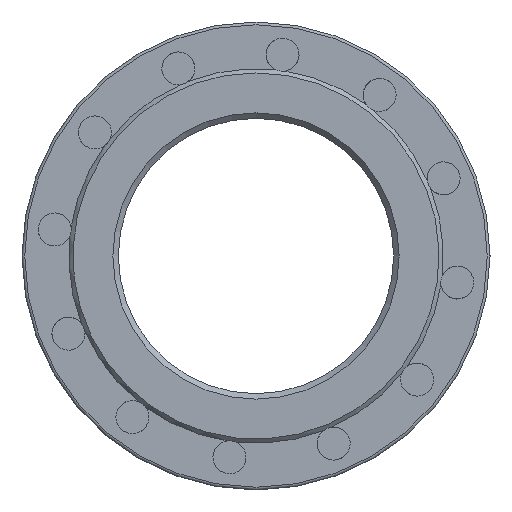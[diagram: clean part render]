
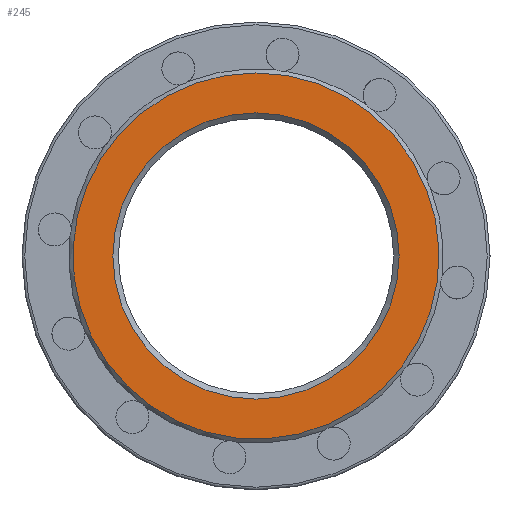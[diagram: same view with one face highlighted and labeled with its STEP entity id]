
A CAD part, left-side view. The second image highlights one B-rep face of the part: STEP entity #245.
In plain terms, the highlighted planar face has unit normal (-1, 0, 0).
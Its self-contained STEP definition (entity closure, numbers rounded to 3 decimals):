
#245 = ADVANCED_FACE ( 'NONE', ( #2718, #2709 ), #3293, .F. ) ;
#451 = CARTESIAN_POINT ( 'NONE',  ( -250., 0., -104. ) ) ;
#455 = CARTESIAN_POINT ( 'NONE',  ( -250., 0., 133. ) ) ;
#1698 = AXIS2_PLACEMENT_3D ( 'NONE', #2110, #2111, #2112 ) ;
#2064 = CARTESIAN_POINT ( 'NONE',  ( -250., 0., 0. ) ) ;
#2065 = DIRECTION ( 'NONE',  ( 1., 0., 0. ) ) ;
#2066 = DIRECTION ( 'NONE',  ( 0., 0., -1. ) ) ;
#2110 = CARTESIAN_POINT ( 'NONE',  ( -250., 0., 0. ) ) ;
#2111 = DIRECTION ( 'NONE',  ( -1., 0., 0. ) ) ;
#2112 = DIRECTION ( 'NONE',  ( 0., 0., 1. ) ) ;
#2417 = AXIS2_PLACEMENT_3D ( 'NONE', #2064, #2065, #2066 ) ;
#2440 = AXIS2_PLACEMENT_3D ( 'NONE', #3290, #3295, #3296 ) ;
#2520 = EDGE_CURVE ( 'NONE', #2919, #2919, #2800, .T. ) ;
#2534 = EDGE_CURVE ( 'NONE', #2923, #2923, #2813, .T. ) ;
#2709 = FACE_BOUND ( 'NONE', #3812, .T. ) ;
#2718 = FACE_OUTER_BOUND ( 'NONE', #3821, .T. ) ;
#2800 = CIRCLE ( 'NONE', #2417, 104. ) ;
#2813 = CIRCLE ( 'NONE', #1698, 133. ) ;
#2919 = VERTEX_POINT ( 'NONE', #451 ) ;
#2923 = VERTEX_POINT ( 'NONE', #455 ) ;
#3290 = CARTESIAN_POINT ( 'NONE',  ( -250., 100., 0. ) ) ;
#3293 = PLANE ( 'NONE',  #2440 ) ;
#3295 = DIRECTION ( 'NONE',  ( 1., 0., 0. ) ) ;
#3296 = DIRECTION ( 'NONE',  ( 0., 0., -1. ) ) ;
#3666 = ORIENTED_EDGE ( 'NONE', *, *, #2520, .T. ) ;
#3667 = ORIENTED_EDGE ( 'NONE', *, *, #2534, .T. ) ;
#3812 = EDGE_LOOP ( 'NONE', ( #3666 ) ) ;
#3821 = EDGE_LOOP ( 'NONE', ( #3667 ) ) ;
